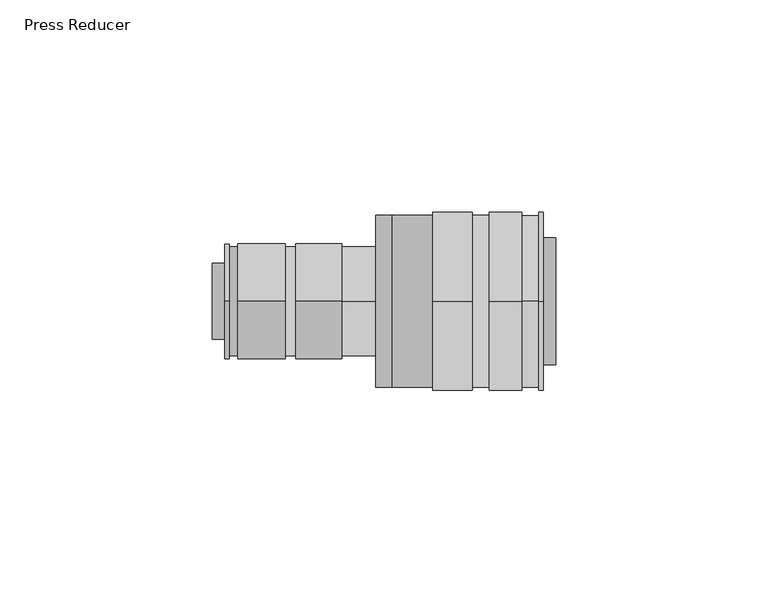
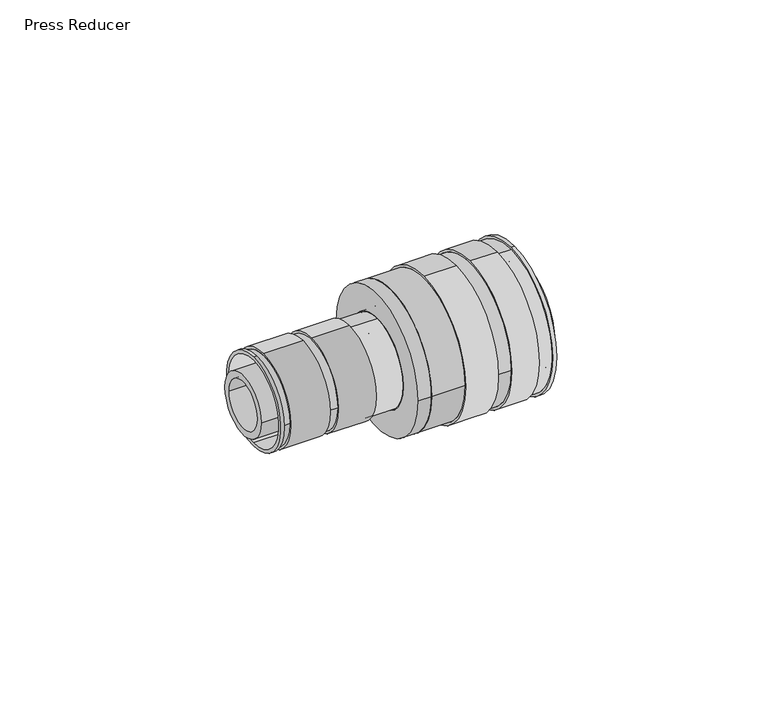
"""IFC4 building model written with IfcOpenShell, lengths in millimetres: pipe fitting geometry, Press Reducer : Superpipe Press Reducer."""

from ifc_helpers import new_model, si_unit, point, frame, frame_2d, origin, place, context, project, spatial, polyline, circle_curve, trimmed, segment, composite_curve, outline, extrude, source, transform, mapped, element, save
from ifc_brep_helpers import plane_surface, cylinder_surface, revolved_surface, advanced_brep


def press_reducer_467b4773(model_context):
    return source(origin(), model_context, "Body", "SolidModel", [
        advanced_brep(
        [(3.0, 0.0, -13.5), (3.0, 0.0, 13.5), (3.0, 0.0, -12.5), (3.0, 0.0, 12.5), (38.5, 0.0, -12.8), (38.5, 0.0, 12.8), (38.5, 0.0, -12.5), (38.5, 0.0, 12.5), (4.0, 0.0, -13.5), (4.0, -13.5, 0.0), (4.0, 0.0, 13.5), (30.5, 0.0, -13.5), (30.5, 0.0, 13.5), (19.75, 0.0, 13.5), (19.75, -13.5, 0.0), (19.75, 0.0, -13.5), (17.25, 0.0, -13.5), (17.25, -13.5, 0.0), (17.25, 0.0, 13.5), (6.0, 0.0, 13.5), (6.0, -13.5, 0.0), (6.0, 0.0, -13.5), (4.0, 13.5, 0.0), (19.75, 13.5, 0.0), (17.25, 13.5, 0.0), (6.0, 13.5, 0.0), (30.5, 0.0, -12.8), (30.5, 0.0, 12.8), (17.25, 12.8, 0.0), (17.25, -12.8, 0.0), (19.75, 12.8, 0.0), (19.75, -12.8, 0.0), (6.0, -12.8, 0.0), (6.0, 12.8, 0.0), (4.0, -12.8, 0.0), (4.0, 12.8, 0.0)],
        [
            (0, 1, circle_curve(frame((3.0, 0.0, 0.0), z_axis=(-1.0, 0.0, 0.0), x_axis=(0.0, 0.0, 1.0)), 13.5)),
            (1, 0, circle_curve(frame((3.0, 0.0, 0.0), z_axis=(-1.0, 0.0, 0.0), x_axis=(0.0, 0.0, 1.0)), 13.5)),
            (2, 3, circle_curve(frame((3.0, 0.0, 0.0), z_axis=(1.0, 0.0, 0.0), x_axis=(0.0, 0.0, 1.0)), 12.5)),
            (3, 2, circle_curve(frame((3.0, 0.0, 0.0), z_axis=(1.0, 0.0, 0.0), x_axis=(0.0, 0.0, 1.0)), 12.5)),
            (4, 5, circle_curve(frame((38.5, 0.0, 0.0), z_axis=(1.0, 0.0, 0.0), x_axis=(0.0, 0.0, 1.0)), 12.8)),
            (5, 4, circle_curve(frame((38.5, 0.0, 0.0), z_axis=(1.0, 0.0, 0.0), x_axis=(0.0, 0.0, 1.0)), 12.8)),
            (6, 7, circle_curve(frame((38.5, 0.0, 0.0), z_axis=(-1.0, 0.0, 0.0), x_axis=(0.0, 0.0, 1.0)), 12.5)),
            (7, 6, circle_curve(frame((38.5, 0.0, 0.0), z_axis=(-1.0, 0.0, 0.0), x_axis=(0.0, 0.0, 1.0)), 12.5)),
            (0, 8),
            (8, 9, circle_curve(frame((4.0, 0.0, 0.0), z_axis=(-1.0, 0.0, 0.0), x_axis=(0.0, 0.0, 1.0)), 13.5)),
            (9, 10, circle_curve(frame((4.0, 0.0, 0.0), z_axis=(-1.0, 0.0, 0.0), x_axis=(0.0, 0.0, 1.0)), 13.5)),
            (10, 1),
            (11, 12, circle_curve(frame((30.5, 0.0, 0.0), z_axis=(-1.0, 0.0, 0.0), x_axis=(0.0, 0.0, 1.0)), 13.5)),
            (12, 13),
            (13, 14, circle_curve(frame((19.75, 0.0, 0.0), z_axis=(1.0, 0.0, 0.0), x_axis=(0.0, 0.0, 1.0)), 13.5)),
            (14, 15, circle_curve(frame((19.75, 0.0, 0.0), z_axis=(1.0, 0.0, 0.0), x_axis=(0.0, 0.0, 1.0)), 13.5)),
            (15, 11),
            (16, 17, circle_curve(frame((17.25, 0.0, 0.0), z_axis=(-1.0, 0.0, 0.0), x_axis=(0.0, 0.0, 1.0)), 13.5)),
            (17, 18, circle_curve(frame((17.25, 0.0, 0.0), z_axis=(-1.0, 0.0, 0.0), x_axis=(0.0, 0.0, 1.0)), 13.5)),
            (18, 19),
            (19, 20, circle_curve(frame((6.0, 0.0, 0.0), z_axis=(1.0, 0.0, 0.0), x_axis=(0.0, 0.0, 1.0)), 13.5)),
            (20, 21, circle_curve(frame((6.0, 0.0, 0.0), z_axis=(1.0, 0.0, 0.0), x_axis=(0.0, 0.0, 1.0)), 13.5)),
            (21, 16),
            (10, 22, circle_curve(frame((4.0, 0.0, 0.0), z_axis=(-1.0, 0.0, 0.0), x_axis=(0.0, 0.0, 1.0)), 13.5)),
            (22, 8, circle_curve(frame((4.0, 0.0, 0.0), z_axis=(-1.0, 0.0, 0.0), x_axis=(0.0, 0.0, 1.0)), 13.5)),
            (12, 11, circle_curve(frame((30.5, 0.0, 0.0), z_axis=(-1.0, 0.0, 0.0), x_axis=(0.0, 0.0, 1.0)), 13.5)),
            (15, 23, circle_curve(frame((19.75, 0.0, 0.0), z_axis=(1.0, 0.0, 0.0), x_axis=(0.0, 0.0, 1.0)), 13.5)),
            (23, 13, circle_curve(frame((19.75, 0.0, 0.0), z_axis=(1.0, 0.0, 0.0), x_axis=(0.0, 0.0, 1.0)), 13.5)),
            (24, 16, circle_curve(frame((17.25, 0.0, 0.0), z_axis=(-1.0, 0.0, 0.0), x_axis=(0.0, 0.0, 1.0)), 13.5)),
            (21, 25, circle_curve(frame((6.0, 0.0, 0.0), z_axis=(1.0, 0.0, 0.0), x_axis=(0.0, 0.0, 1.0)), 13.5)),
            (25, 19, circle_curve(frame((6.0, 0.0, 0.0), z_axis=(1.0, 0.0, 0.0), x_axis=(0.0, 0.0, 1.0)), 13.5)),
            (18, 24, circle_curve(frame((17.25, 0.0, 0.0), z_axis=(-1.0, 0.0, 0.0), x_axis=(0.0, 0.0, 1.0)), 13.5)),
            (2, 6),
            (7, 3),
            (26, 27, circle_curve(frame((30.5, 0.0, 0.0), z_axis=(-1.0, 0.0, 0.0), x_axis=(0.0, 0.0, 1.0)), 12.8)),
            (27, 26, circle_curve(frame((30.5, 0.0, 0.0), z_axis=(-1.0, 0.0, 0.0), x_axis=(0.0, 0.0, 1.0)), 12.8)),
            (27, 5),
            (4, 26),
            (28, 29, circle_curve(frame((17.25, 0.0, 0.0), z_axis=(-1.0, 0.0, 0.0), x_axis=(0.0, -1.0, 0.0)), 12.8)),
            (29, 28, circle_curve(frame((17.25, 0.0, 0.0), z_axis=(-1.0, 0.0, 0.0), x_axis=(0.0, -1.0, 0.0)), 12.8)),
            (30, 31, circle_curve(frame((19.75, 0.0, 0.0), z_axis=(1.0, 0.0, 0.0), x_axis=(0.0, -1.0, 0.0)), 12.8)),
            (31, 30, circle_curve(frame((19.75, 0.0, 0.0), z_axis=(1.0, 0.0, 0.0), x_axis=(0.0, -1.0, 0.0)), 12.8)),
            (29, 31),
            (30, 28),
            (32, 33, circle_curve(frame((6.0, 0.0, 0.0), z_axis=(1.0, 0.0, 0.0), x_axis=(0.0, 1.0, 0.0)), 12.8)),
            (33, 32, circle_curve(frame((6.0, 0.0, 0.0), z_axis=(1.0, 0.0, 0.0), x_axis=(0.0, 1.0, 0.0)), 12.8)),
            (34, 35, circle_curve(frame((4.0, 0.0, 0.0), z_axis=(-1.0, 0.0, 0.0), x_axis=(0.0, 1.0, 0.0)), 12.8)),
            (35, 34, circle_curve(frame((4.0, 0.0, 0.0), z_axis=(-1.0, 0.0, 0.0), x_axis=(0.0, 1.0, 0.0)), 12.8)),
            (33, 35),
            (34, 32),
        ],
        [
            plane_surface(frame((3.0, 0.0, 13.5), z_axis=(-1.0, 0.0, 0.0), x_axis=(0.0, 1.0, 0.0))),
            plane_surface(frame((38.5, 0.0, 13.5), z_axis=(1.0, 0.0, 0.0), x_axis=(0.0, -1.0, 0.0))),
            cylinder_surface(frame((38.5, 0.0, 0.0), z_axis=(-1.0, 0.0, 0.0), x_axis=(0.0, 0.0, 1.0)), 13.5),
            revolved_surface(polyline([(38.5, 0.0, 12.5), (3.0, 0.0, 12.5)]), (38.5, 0.0, 0.0), (1.0, 0.0, 0.0)),
            plane_surface(frame((30.5, 0.0, 13.5), z_axis=(1.0, 0.0, 0.0), x_axis=(0.0, 1.0, 0.0))),
            cylinder_surface(frame((38.5, 0.0, 0.0), z_axis=(1.0, 0.0, 0.0), x_axis=(0.0, 0.0, 1.0)), 12.8),
            plane_surface(frame((17.25, -13.5, 0.0), z_axis=(1.0, 0.0, 0.0), x_axis=(0.0, 0.0, 1.0))),
            plane_surface(frame((19.75, -13.5, 0.0), z_axis=(-1.0, 0.0, 0.0), x_axis=(0.0, 0.0, -1.0))),
            cylinder_surface(frame((19.75, 0.0, 0.0), z_axis=(1.0, 0.0, 0.0), x_axis=(0.0, -1.0, 0.0)), 12.8),
            plane_surface(frame((6.0, 13.5, 0.0), z_axis=(-1.0, 0.0, 0.0), x_axis=(0.0, 0.0, 1.0))),
            plane_surface(frame((4.0, 13.5, 0.0), z_axis=(1.0, 0.0, 0.0), x_axis=(0.0, 0.0, -1.0))),
            cylinder_surface(frame((3.0, 0.0, 0.0), z_axis=(-1.0, 0.0, 0.0), x_axis=(0.0, 1.0, 0.0)), 12.8),
        ],
        [
            (0, [[1, 2], [3, 4]]),
            (1, [[5, 6], [7, 8]]),
            (2, [[-1, 9, 10, 11, 12]]),
            (2, [[13, 14, 15, 16, 17]]),
            (2, [[18, 19, 20, 21, 22, 23]]),
            (2, [[-2, -12, 24, 25, -9]]),
            (2, [[26, -17, 27, 28, -14]]),
            (2, [[29, -23, 30, 31, -20, 32]]),
            (3, [[-3, 33, -8, 34]]),
            (3, [[-4, -34, -7, -33]]),
            (4, [[-13, -26], [35, 36]]),
            (5, [[-36, 37, -5, 38]]),
            (5, [[-35, -38, -6, -37]]),
            (6, [[-18, -29, -32, -19], [39, 40]]),
            (7, [[-16, -15, -28, -27], [41, 42]]),
            (8, [[-40, 43, -41, 44]]),
            (8, [[-39, -44, -42, -43]]),
            (9, [[-22, -21, -31, -30], [45, 46]]),
            (10, [[-10, -25, -24, -11], [47, 48]]),
            (11, [[-46, 49, -47, 50]]),
            (11, [[-45, -50, -48, -49]]),
        ],
    ),
        advanced_brep(
        [(78.0, 0.0, -21.0), (78.0, 0.0, 21.0), (78.0, 0.0, -20.0), (78.0, 0.0, 20.0), (42.5, -20.3, 0.0), (42.5, 20.3, 0.0), (42.5, 0.0, -20.0), (42.5, 0.0, 20.0), (77.0, 0.0, -21.0), (77.0, 0.0, 21.0), (52.0, 0.0, -21.0), (52.0, 21.0, 0.0), (52.0, 0.0, 21.0), (61.25, 0.0, 21.0), (61.25, 21.0, 0.0), (61.25, 0.0, -21.0), (73.0, 0.0, 21.0), (73.0, 0.0, -21.0), (65.25, 0.0, -21.0), (65.25, 21.0, 0.0), (65.25, 0.0, 21.0), (52.0, -21.0, 0.0), (61.25, -21.0, 0.0), (65.25, -21.0, 0.0), (52.0, -20.3, 0.0), (52.0, 20.3, 0.0), (73.0, 0.0, 20.3), (73.0, 0.0, -20.3), (77.0, 0.0, 20.3), (77.0, 0.0, -20.3), (61.25, 20.3, 0.0), (61.25, -20.3, 0.0), (65.25, 20.3, 0.0), (65.25, -20.3, 0.0)],
        [
            (0, 1, circle_curve(frame((78.0, 0.0, 0.0), z_axis=(1.0, 0.0, 0.0), x_axis=(0.0, 0.0, 1.0)), 21.0)),
            (1, 0, circle_curve(frame((78.0, 0.0, 0.0), z_axis=(1.0, 0.0, 0.0), x_axis=(0.0, 0.0, 1.0)), 21.0)),
            (2, 3, circle_curve(frame((78.0, 0.0, 0.0), z_axis=(-1.0, 0.0, 0.0), x_axis=(0.0, 0.0, 1.0)), 20.0)),
            (3, 2, circle_curve(frame((78.0, 0.0, 0.0), z_axis=(-1.0, 0.0, 0.0), x_axis=(0.0, 0.0, 1.0)), 20.0)),
            (4, 5, circle_curve(frame((42.5, 0.0, 0.0), z_axis=(-1.0, 0.0, 0.0), x_axis=(0.0, 1.0, 0.0)), 20.3)),
            (5, 4, circle_curve(frame((42.5, 0.0, 0.0), z_axis=(-1.0, 0.0, 0.0), x_axis=(0.0, 1.0, 0.0)), 20.3)),
            (6, 7, circle_curve(frame((42.5, 0.0, 0.0), z_axis=(1.0, 0.0, 0.0), x_axis=(0.0, 0.0, 1.0)), 20.0)),
            (7, 6, circle_curve(frame((42.5, 0.0, 0.0), z_axis=(1.0, 0.0, 0.0), x_axis=(0.0, 0.0, 1.0)), 20.0)),
            (0, 8),
            (8, 9, circle_curve(frame((77.0, 0.0, 0.0), z_axis=(1.0, 0.0, 0.0), x_axis=(0.0, 0.0, 1.0)), 21.0)),
            (9, 1),
            (10, 11, circle_curve(frame((52.0, 0.0, 0.0), z_axis=(1.0, 0.0, 0.0), x_axis=(0.0, 0.0, 1.0)), 21.0)),
            (11, 12, circle_curve(frame((52.0, 0.0, 0.0), z_axis=(1.0, 0.0, 0.0), x_axis=(0.0, 0.0, 1.0)), 21.0)),
            (12, 13),
            (13, 14, circle_curve(frame((61.25, 0.0, 0.0), z_axis=(-1.0, 0.0, 0.0), x_axis=(0.0, 0.0, 1.0)), 21.0)),
            (14, 15, circle_curve(frame((61.25, 0.0, 0.0), z_axis=(-1.0, 0.0, 0.0), x_axis=(0.0, 0.0, 1.0)), 21.0)),
            (15, 10),
            (16, 17, circle_curve(frame((73.0, 0.0, 0.0), z_axis=(-1.0, 0.0, 0.0), x_axis=(0.0, 0.0, 1.0)), 21.0)),
            (17, 18),
            (18, 19, circle_curve(frame((65.25, 0.0, 0.0), z_axis=(1.0, 0.0, 0.0), x_axis=(0.0, 0.0, 1.0)), 21.0)),
            (19, 20, circle_curve(frame((65.25, 0.0, 0.0), z_axis=(1.0, 0.0, 0.0), x_axis=(0.0, 0.0, 1.0)), 21.0)),
            (20, 16),
            (9, 8, circle_curve(frame((77.0, 0.0, 0.0), z_axis=(1.0, 0.0, 0.0), x_axis=(0.0, 0.0, 1.0)), 21.0)),
            (21, 10, circle_curve(frame((52.0, 0.0, 0.0), z_axis=(1.0, 0.0, 0.0), x_axis=(0.0, 0.0, 1.0)), 21.0)),
            (15, 22, circle_curve(frame((61.25, 0.0, 0.0), z_axis=(-1.0, 0.0, 0.0), x_axis=(0.0, 0.0, 1.0)), 21.0)),
            (22, 13, circle_curve(frame((61.25, 0.0, 0.0), z_axis=(-1.0, 0.0, 0.0), x_axis=(0.0, 0.0, 1.0)), 21.0)),
            (12, 21, circle_curve(frame((52.0, 0.0, 0.0), z_axis=(1.0, 0.0, 0.0), x_axis=(0.0, 0.0, 1.0)), 21.0)),
            (17, 16, circle_curve(frame((73.0, 0.0, 0.0), z_axis=(-1.0, 0.0, 0.0), x_axis=(0.0, 0.0, 1.0)), 21.0)),
            (20, 23, circle_curve(frame((65.25, 0.0, 0.0), z_axis=(1.0, 0.0, 0.0), x_axis=(0.0, 0.0, 1.0)), 21.0)),
            (23, 18, circle_curve(frame((65.25, 0.0, 0.0), z_axis=(1.0, 0.0, 0.0), x_axis=(0.0, 0.0, 1.0)), 21.0)),
            (2, 6),
            (7, 3),
            (24, 25, circle_curve(frame((52.0, 0.0, 0.0), z_axis=(1.0, 0.0, 0.0), x_axis=(0.0, 1.0, 0.0)), 20.3)),
            (25, 24, circle_curve(frame((52.0, 0.0, 0.0), z_axis=(1.0, 0.0, 0.0), x_axis=(0.0, 1.0, 0.0)), 20.3)),
            (25, 5),
            (4, 24),
            (26, 27, circle_curve(frame((73.0, 0.0, 0.0), z_axis=(-1.0, 0.0, 0.0), x_axis=(0.0, 0.0, -1.0)), 20.3)),
            (27, 26, circle_curve(frame((73.0, 0.0, 0.0), z_axis=(-1.0, 0.0, 0.0), x_axis=(0.0, 0.0, -1.0)), 20.3)),
            (28, 29, circle_curve(frame((77.0, 0.0, 0.0), z_axis=(1.0, 0.0, 0.0), x_axis=(0.0, 0.0, -1.0)), 20.3)),
            (29, 28, circle_curve(frame((77.0, 0.0, 0.0), z_axis=(1.0, 0.0, 0.0), x_axis=(0.0, 0.0, -1.0)), 20.3)),
            (27, 29),
            (28, 26),
            (30, 31, circle_curve(frame((61.25, 0.0, 0.0), z_axis=(-1.0, 0.0, 0.0), x_axis=(0.0, -1.0, 0.0)), 20.3)),
            (31, 30, circle_curve(frame((61.25, 0.0, 0.0), z_axis=(-1.0, 0.0, 0.0), x_axis=(0.0, -1.0, 0.0)), 20.3)),
            (32, 33, circle_curve(frame((65.25, 0.0, 0.0), z_axis=(1.0, 0.0, 0.0), x_axis=(0.0, -1.0, 0.0)), 20.3)),
            (33, 32, circle_curve(frame((65.25, 0.0, 0.0), z_axis=(1.0, 0.0, 0.0), x_axis=(0.0, -1.0, 0.0)), 20.3)),
            (31, 33),
            (32, 30),
        ],
        [
            plane_surface(frame((78.0, 0.0, 21.0), z_axis=(1.0, 0.0, 0.0), x_axis=(0.0, -1.0, 0.0))),
            plane_surface(frame((42.5, 0.0, 21.0), z_axis=(-1.0, 0.0, 0.0), x_axis=(0.0, 1.0, 0.0))),
            cylinder_surface(frame((42.5, 0.0, 0.0), z_axis=(1.0, 0.0, 0.0), x_axis=(0.0, 0.0, 1.0)), 21.0),
            revolved_surface(polyline([(42.5, 0.0, 20.0), (78.0, 0.0, 20.0)]), (42.5, 0.0, 0.0), (-1.0, 0.0, 0.0)),
            plane_surface(frame((52.0, 21.0, 0.0), z_axis=(-1.0, 0.0, 0.0), x_axis=(0.0, 0.0, 1.0))),
            cylinder_surface(frame((42.5, 0.0, 0.0), z_axis=(-1.0, 0.0, 0.0), x_axis=(0.0, 1.0, 0.0)), 20.3),
            plane_surface(frame((73.0, 0.0, -21.0), z_axis=(1.0, 0.0, 0.0), x_axis=(0.0, -1.0, 0.0))),
            plane_surface(frame((77.0, 0.0, -21.0), z_axis=(-1.0, 0.0, 0.0), x_axis=(0.0, 1.0, 0.0))),
            cylinder_surface(frame((78.0, 0.0, 0.0), z_axis=(1.0, 0.0, 0.0), x_axis=(0.0, 0.0, -1.0)), 20.3),
            plane_surface(frame((61.25, -21.0, 0.0), z_axis=(1.0, 0.0, 0.0), x_axis=(0.0, 0.0, 1.0))),
            plane_surface(frame((65.25, -21.0, 0.0), z_axis=(-1.0, 0.0, 0.0), x_axis=(0.0, 0.0, -1.0))),
            cylinder_surface(frame((61.25, 0.0, 0.0), z_axis=(1.0, 0.0, 0.0), x_axis=(0.0, -1.0, 0.0)), 20.3),
        ],
        [
            (0, [[1, 2], [3, 4]]),
            (1, [[5, 6], [7, 8]]),
            (2, [[-1, 9, 10, 11]]),
            (2, [[12, 13, 14, 15, 16, 17]]),
            (2, [[18, 19, 20, 21, 22]]),
            (2, [[-2, -11, 23, -9]]),
            (2, [[24, -17, 25, 26, -14, 27]]),
            (2, [[28, -22, 29, 30, -19]]),
            (3, [[-3, 31, -8, 32]]),
            (3, [[-4, -32, -7, -31]]),
            (4, [[-12, -24, -27, -13], [33, 34]]),
            (5, [[-34, 35, -5, 36]]),
            (5, [[-33, -36, -6, -35]]),
            (6, [[-18, -28], [37, 38]]),
            (7, [[-10, -23], [39, 40]]),
            (8, [[-38, 41, -39, 42]]),
            (8, [[-37, -42, -40, -41]]),
            (9, [[-16, -15, -26, -25], [43, 44]]),
            (10, [[-20, -30, -29, -21], [45, 46]]),
            (11, [[-44, 47, -45, 48]]),
            (11, [[-43, -48, -46, -47]]),
        ],
    ),
        extrude(outline(composite_curve([segment(trimmed(circle_curve(frame_2d((-0.000673, 0.0)), 15.0), [point((-15.000673, 0.0))], [point((14.999327, 0.0))], False, "CARTESIAN"), True, "CONTINUOUS"), segment(trimmed(circle_curve(frame_2d((-0.000673, 0.0)), 15.0), [point((14.999327, 0.0))], [point((-15.000673, 0.0))], False, "CARTESIAN"), True, "CONTINUOUS")], self_intersect=False), holes=[composite_curve([segment(trimmed(circle_curve(frame_2d((-0.000673, 0.0)), 13.0), [point((12.999327, 0.0))], [point((-13.000673, 0.0))], True, "CARTESIAN"), True, "CONTINUOUS"), segment(trimmed(circle_curve(frame_2d((-0.000673, 0.0)), 13.0), [point((-13.000673, 0.0))], [point((12.999327, 0.0))], True, "CARTESIAN"), True, "CONTINUOUS")], self_intersect=False)]), frame((42.5, 0.0, 0.0), z_axis=(1.0, 0.0, 0.0), x_axis=(0.0, 1.0, 0.0)), (0.0, 0.0, 1.0), 38.5),
        extrude(outline(composite_curve([segment(trimmed(circle_curve(frame_2d((-0.000673, 0.0)), 20.3), [point((-20.300673, 0.0))], [point((20.299327, 0.0))], False, "CARTESIAN"), True, "CONTINUOUS"), segment(trimmed(circle_curve(frame_2d((-0.000673, 0.0)), 20.3), [point((20.299327, 0.0))], [point((-20.300673, 0.0))], False, "CARTESIAN"), True, "CONTINUOUS")], self_intersect=False), holes=[composite_curve([segment(trimmed(circle_curve(frame_2d((-0.000673, 0.0)), 13.0), [point((12.999327, 0.0))], [point((-13.000673, 0.0))], True, "CARTESIAN"), True, "CONTINUOUS"), segment(trimmed(circle_curve(frame_2d((-0.000673, 0.0)), 13.0), [point((-13.000673, 0.0))], [point((12.999327, 0.0))], True, "CARTESIAN"), True, "CONTINUOUS")], self_intersect=False)]), frame((38.5, 0.0, 0.0), z_axis=(1.0, 0.0, 0.0), x_axis=(0.0, 1.0, 0.0)), (0.0, 0.0, 1.0), 4.0),
        extrude(outline(composite_curve([segment(trimmed(circle_curve(frame_2d((-0.000673, 0.0)), 9.0), [point((-9.000673, 0.0))], [point((8.999327, 0.0))], False, "CARTESIAN"), True, "CONTINUOUS"), segment(trimmed(circle_curve(frame_2d((-0.000673, 0.0)), 9.0), [point((8.999327, 0.0))], [point((-9.000673, 0.0))], False, "CARTESIAN"), True, "CONTINUOUS")], self_intersect=False), holes=[composite_curve([segment(trimmed(circle_curve(frame_2d((-0.000673, 0.0)), 7.0), [point((6.999327, 0.0))], [point((-7.000673, 0.0))], True, "CARTESIAN"), True, "CONTINUOUS"), segment(trimmed(circle_curve(frame_2d((-0.000673, 0.0)), 7.0), [point((-7.000673, 0.0))], [point((6.999327, 0.0))], True, "CARTESIAN"), True, "CONTINUOUS")], self_intersect=False)]), frame((0.0, 0.0, 0.0), z_axis=(1.0, 0.0, 0.0), x_axis=(0.0, 1.0, 0.0)), (0.0, 0.0, 1.0), 38.5),
    ])


if __name__ == "__main__":
    model = new_model("IFC4")
    model_context = context("Model", 3, world=origin())
    ifc_project = project(units=[si_unit("LENGTHUNIT", "METRE", prefix="MILLI")], contexts=[model_context])
    site = spatial("IfcSite", under=ifc_project)
    building = spatial("IfcBuilding", under=site)
    placement = place(None, origin())
    press_reducer_shape = press_reducer_467b4773(model_context)
    element("IfcPipeFitting", 1, ObjectType="Press Reducer : Superpipe Press Reducer", at=placement, inside=building, context=model_context, shape_type="MappedRepresentation", body=[
        mapped(press_reducer_shape, transform((0.0, 0.0, 0.0), x_axis=(1.0, 0.0, 0.0), y_axis=(0.0, 1.0, 0.0), z_axis=(0.0, 0.0, 1.0))),
    ])
    save(model, "model.ifc")
